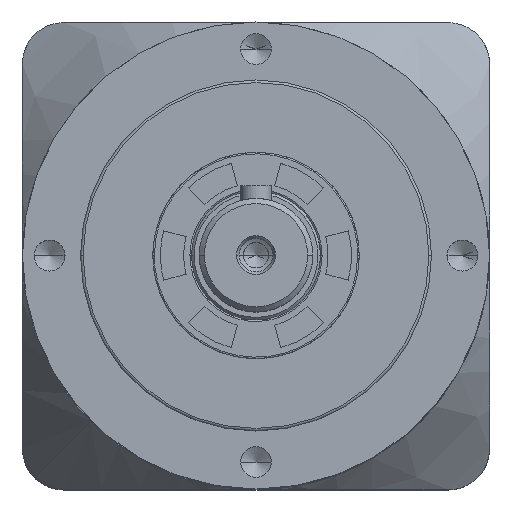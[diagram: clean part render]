
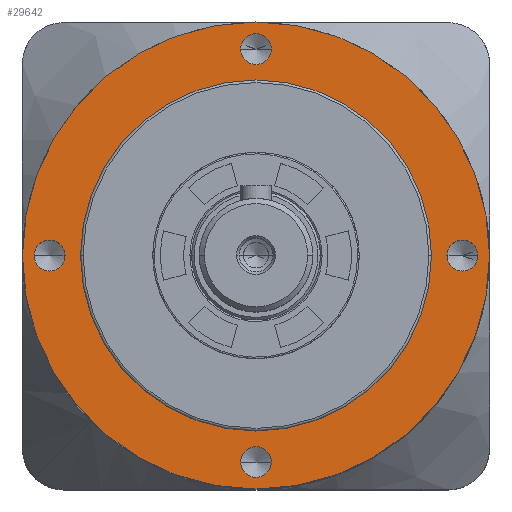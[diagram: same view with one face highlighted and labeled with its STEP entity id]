
A CAD part, top view. The second image highlights one B-rep face of the part: STEP entity #29642.
In plain terms, the highlighted planar face has unit normal (0, 0, 1).
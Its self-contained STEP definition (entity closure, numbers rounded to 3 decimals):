
#250 = AXIS2_PLACEMENT_3D ( 'NONE', #5859, #22487, #27288 ) ;
#361 = EDGE_CURVE ( 'NONE', #13402, #25526, #20628, .T. ) ;
#922 = FACE_BOUND ( 'NONE', #17593, .T. ) ;
#1194 = CARTESIAN_POINT ( 'NONE',  ( 0., 0., 18.1 ) ) ;
#1214 = CIRCLE ( 'NONE', #11695, 3. ) ;
#1227 = EDGE_CURVE ( 'NONE', #7725, #17920, #9401, .T. ) ;
#1311 = CARTESIAN_POINT ( 'NONE',  ( -45.25, 0., 18.1 ) ) ;
#1511 = CARTESIAN_POINT ( 'NONE',  ( 0., 40., 18.1 ) ) ;
#1677 = DIRECTION ( 'NONE',  ( 1., 0., 0. ) ) ;
#1746 = CARTESIAN_POINT ( 'NONE',  ( -3., -40., 18.1 ) ) ;
#1775 = ORIENTED_EDGE ( 'NONE', *, *, #22821, .F. ) ;
#1852 = CARTESIAN_POINT ( 'NONE',  ( 0., 0., 18.1 ) ) ;
#2443 = CARTESIAN_POINT ( 'NONE',  ( 0., 0., 18.1 ) ) ;
#2648 = DIRECTION ( 'NONE',  ( 0., 0., 1. ) ) ;
#2786 = FACE_BOUND ( 'NONE', #20412, .T. ) ;
#2806 = DIRECTION ( 'NONE',  ( 0., 0., 1. ) ) ;
#3222 = DIRECTION ( 'NONE',  ( 0., 0., 1. ) ) ;
#3260 = CARTESIAN_POINT ( 'NONE',  ( -37., 0., 18.1 ) ) ;
#3915 = ORIENTED_EDGE ( 'NONE', *, *, #361, .F. ) ;
#4448 = VERTEX_POINT ( 'NONE', #9227 ) ;
#4765 = DIRECTION ( 'NONE',  ( 0., 0., 1. ) ) ;
#4792 = DIRECTION ( 'NONE',  ( 0., 0., 1. ) ) ;
#5161 = ORIENTED_EDGE ( 'NONE', *, *, #23758, .F. ) ;
#5207 = CIRCLE ( 'NONE', #250, 3. ) ;
#5242 = CARTESIAN_POINT ( 'NONE',  ( 0., 0., 18.1 ) ) ;
#5530 = EDGE_LOOP ( 'NONE', ( #10884, #7431 ) ) ;
#5859 = CARTESIAN_POINT ( 'NONE',  ( 40., 0., 18.1 ) ) ;
#6318 = CIRCLE ( 'NONE', #20136, 34. ) ;
#6498 = EDGE_CURVE ( 'NONE', #4448, #18221, #29943, .T. ) ;
#6885 = DIRECTION ( 'NONE',  ( 1., 0., 0. ) ) ;
#7095 = PLANE ( 'NONE',  #17193 ) ;
#7138 = CARTESIAN_POINT ( 'NONE',  ( -40., 0., 18.1 ) ) ;
#7200 = CARTESIAN_POINT ( 'NONE',  ( 0., -40., 18.1 ) ) ;
#7427 = EDGE_LOOP ( 'NONE', ( #25460, #8630 ) ) ;
#7431 = ORIENTED_EDGE ( 'NONE', *, *, #8731, .T. ) ;
#7657 = CARTESIAN_POINT ( 'NONE',  ( -34., 0., 18.1 ) ) ;
#7725 = VERTEX_POINT ( 'NONE', #15231 ) ;
#8276 = CIRCLE ( 'NONE', #11739, 3. ) ;
#8281 = AXIS2_PLACEMENT_3D ( 'NONE', #1511, #27758, #25560 ) ;
#8630 = ORIENTED_EDGE ( 'NONE', *, *, #9699, .F. ) ;
#8731 = EDGE_CURVE ( 'NONE', #17920, #7725, #18232, .T. ) ;
#8814 = CARTESIAN_POINT ( 'NONE',  ( 40., 0., 18.1 ) ) ;
#9227 = CARTESIAN_POINT ( 'NONE',  ( 37., 0., 18.1 ) ) ;
#9291 = ORIENTED_EDGE ( 'NONE', *, *, #23613, .F. ) ;
#9378 = VERTEX_POINT ( 'NONE', #7657 ) ;
#9399 = AXIS2_PLACEMENT_3D ( 'NONE', #8814, #11251, #18509 ) ;
#9401 = CIRCLE ( 'NONE', #18848, 45.25 ) ;
#9699 = EDGE_CURVE ( 'NONE', #30200, #9939, #16332, .T. ) ;
#9931 = FACE_BOUND ( 'NONE', #7427, .T. ) ;
#9939 = VERTEX_POINT ( 'NONE', #10901 ) ;
#10174 = CARTESIAN_POINT ( 'NONE',  ( 0., 40., 18.1 ) ) ;
#10639 = AXIS2_PLACEMENT_3D ( 'NONE', #14414, #2648, #31136 ) ;
#10884 = ORIENTED_EDGE ( 'NONE', *, *, #1227, .T. ) ;
#10901 = CARTESIAN_POINT ( 'NONE',  ( 3., 40., 18.1 ) ) ;
#11251 = DIRECTION ( 'NONE',  ( 0., 0., 1. ) ) ;
#11553 = DIRECTION ( 'NONE',  ( 0., 0., 1. ) ) ;
#11695 = AXIS2_PLACEMENT_3D ( 'NONE', #28243, #11553, #1677 ) ;
#11739 = AXIS2_PLACEMENT_3D ( 'NONE', #7138, #12162, #12064 ) ;
#12064 = DIRECTION ( 'NONE',  ( 1., 0., 0. ) ) ;
#12162 = DIRECTION ( 'NONE',  ( 0., 0., 1. ) ) ;
#12260 = VERTEX_POINT ( 'NONE', #29016 ) ;
#12360 = CARTESIAN_POINT ( 'NONE',  ( -40., 0., 18.1 ) ) ;
#13008 = DIRECTION ( 'NONE',  ( 1., 0., 0. ) ) ;
#13402 = VERTEX_POINT ( 'NONE', #24681 ) ;
#13457 = CIRCLE ( 'NONE', #21765, 3. ) ;
#13721 = DIRECTION ( 'NONE',  ( 1., 0., 0. ) ) ;
#14117 = DIRECTION ( 'NONE',  ( 0., 0., 1. ) ) ;
#14414 = CARTESIAN_POINT ( 'NONE',  ( 0., 0., 18.1 ) ) ;
#14606 = DIRECTION ( 'NONE',  ( 1., 0., 0. ) ) ;
#14675 = DIRECTION ( 'NONE',  ( 1., 0., 0. ) ) ;
#15231 = CARTESIAN_POINT ( 'NONE',  ( 45.25, 0., 18.1 ) ) ;
#15516 = ORIENTED_EDGE ( 'NONE', *, *, #6498, .F. ) ;
#16332 = CIRCLE ( 'NONE', #18742, 3. ) ;
#16351 = FACE_OUTER_BOUND ( 'NONE', #5530, .T. ) ;
#17117 = EDGE_CURVE ( 'NONE', #31174, #27411, #1214, .T. ) ;
#17193 = AXIS2_PLACEMENT_3D ( 'NONE', #2443, #14117, #6885 ) ;
#17397 = ORIENTED_EDGE ( 'NONE', *, *, #20902, .F. ) ;
#17593 = EDGE_LOOP ( 'NONE', ( #17397, #3915 ) ) ;
#17920 = VERTEX_POINT ( 'NONE', #1311 ) ;
#18221 = VERTEX_POINT ( 'NONE', #18677 ) ;
#18232 = CIRCLE ( 'NONE', #10639, 45.25 ) ;
#18509 = DIRECTION ( 'NONE',  ( 1., 0., 0. ) ) ;
#18677 = CARTESIAN_POINT ( 'NONE',  ( 43., 0., 18.1 ) ) ;
#18742 = AXIS2_PLACEMENT_3D ( 'NONE', #10174, #3222, #13008 ) ;
#18848 = AXIS2_PLACEMENT_3D ( 'NONE', #5242, #2806, #14606 ) ;
#19172 = EDGE_CURVE ( 'NONE', #9939, #30200, #26363, .T. ) ;
#19498 = EDGE_CURVE ( 'NONE', #12260, #9378, #30495, .T. ) ;
#20136 = AXIS2_PLACEMENT_3D ( 'NONE', #1852, #25685, #13721 ) ;
#20340 = DIRECTION ( 'NONE',  ( 1., 0., 0. ) ) ;
#20412 = EDGE_LOOP ( 'NONE', ( #5161, #27351 ) ) ;
#20628 = CIRCLE ( 'NONE', #25853, 3. ) ;
#20902 = EDGE_CURVE ( 'NONE', #25526, #13402, #8276, .T. ) ;
#21587 = DIRECTION ( 'NONE',  ( 1., 0., 0. ) ) ;
#21765 = AXIS2_PLACEMENT_3D ( 'NONE', #7200, #4765, #21587 ) ;
#22487 = DIRECTION ( 'NONE',  ( 0., 0., 1. ) ) ;
#22738 = FACE_BOUND ( 'NONE', #30389, .T. ) ;
#22821 = EDGE_CURVE ( 'NONE', #18221, #4448, #5207, .T. ) ;
#23613 = EDGE_CURVE ( 'NONE', #9378, #12260, #6318, .T. ) ;
#23758 = EDGE_CURVE ( 'NONE', #27411, #31174, #13457, .T. ) ;
#24681 = CARTESIAN_POINT ( 'NONE',  ( -43., 0., 18.1 ) ) ;
#25362 = DIRECTION ( 'NONE',  ( 0., 0., 1. ) ) ;
#25460 = ORIENTED_EDGE ( 'NONE', *, *, #19172, .F. ) ;
#25526 = VERTEX_POINT ( 'NONE', #3260 ) ;
#25560 = DIRECTION ( 'NONE',  ( 1., 0., 0. ) ) ;
#25685 = DIRECTION ( 'NONE',  ( 0., 0., 1. ) ) ;
#25853 = AXIS2_PLACEMENT_3D ( 'NONE', #12360, #4792, #14675 ) ;
#26363 = CIRCLE ( 'NONE', #8281, 3. ) ;
#27288 = DIRECTION ( 'NONE',  ( 1., 0., 0. ) ) ;
#27351 = ORIENTED_EDGE ( 'NONE', *, *, #17117, .F. ) ;
#27411 = VERTEX_POINT ( 'NONE', #28558 ) ;
#27758 = DIRECTION ( 'NONE',  ( 0., 0., 1. ) ) ;
#28211 = AXIS2_PLACEMENT_3D ( 'NONE', #1194, #25362, #20340 ) ;
#28243 = CARTESIAN_POINT ( 'NONE',  ( 0., -40., 18.1 ) ) ;
#28558 = CARTESIAN_POINT ( 'NONE',  ( 3., -40., 18.1 ) ) ;
#29016 = CARTESIAN_POINT ( 'NONE',  ( 34., 0., 18.1 ) ) ;
#29642 = ADVANCED_FACE ( 'NONE', ( #30644, #2786, #922, #9931, #22738, #16351 ), #7095, .T. ) ;
#29645 = CARTESIAN_POINT ( 'NONE',  ( -3., 40., 18.1 ) ) ;
#29835 = EDGE_LOOP ( 'NONE', ( #1775, #15516 ) ) ;
#29943 = CIRCLE ( 'NONE', #9399, 3. ) ;
#30200 = VERTEX_POINT ( 'NONE', #29645 ) ;
#30389 = EDGE_LOOP ( 'NONE', ( #9291, #31125 ) ) ;
#30495 = CIRCLE ( 'NONE', #28211, 34. ) ;
#30644 = FACE_BOUND ( 'NONE', #29835, .T. ) ;
#31125 = ORIENTED_EDGE ( 'NONE', *, *, #19498, .F. ) ;
#31136 = DIRECTION ( 'NONE',  ( 1., 0., 0. ) ) ;
#31174 = VERTEX_POINT ( 'NONE', #1746 ) ;
